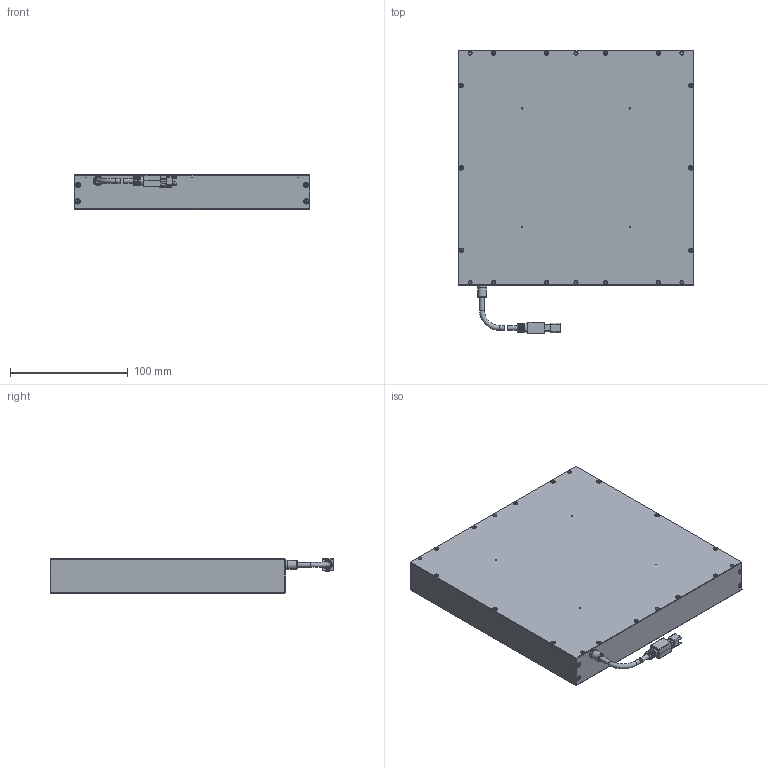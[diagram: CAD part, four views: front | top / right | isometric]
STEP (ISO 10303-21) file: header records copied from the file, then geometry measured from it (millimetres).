
FILE_DESCRIPTION (( 'STEP AP203' ), '1' );
FILE_NAME ('OPT-IFLA200200-IR-V1.0尨砩芞.STEP', '2024-12-17T08:29:59', ( '' ), ( '' ), 'SwSTEP 2.0', 'SolidWorks 2016', '' );
FILE_SCHEMA (( 'CONFIG_CONTROL_DESIGN' ));
Products named in the file (1): OPT-IFLA200200-IR-V1.0尨砩芞
Bounding box: 200 x 241 x 29 mm (x, y, z)
Volume: 1117686.7 mm3; surface area: 118240.4 mm2
Topology: 21 solids, 29 shells, 1100 faces, 2636 edges, 1651 vertices
Faces by surface type: plane 608, cylinder 287, cone 110, bspline 86, torus 9
Full cylindrical faces by diameter (mm): 1.1 x4, 1.6 x22, 2 x22, 2.4 x22, 2.5 x6, 3.4 x6, 3.5 x1, 3.8 x22, 4.1 x4, 5.8 x1, 7.5 x2, 8 x1
Entity records: 61570 total; most frequent: CARTESIAN_POINT 38178, DIRECTION 4686, ORIENTED_EDGE 4608, EDGE_CURVE 2304, AXIS2_PLACEMENT_3D 1585, VERTEX_POINT 1551, LINE 1516, VECTOR 1516
